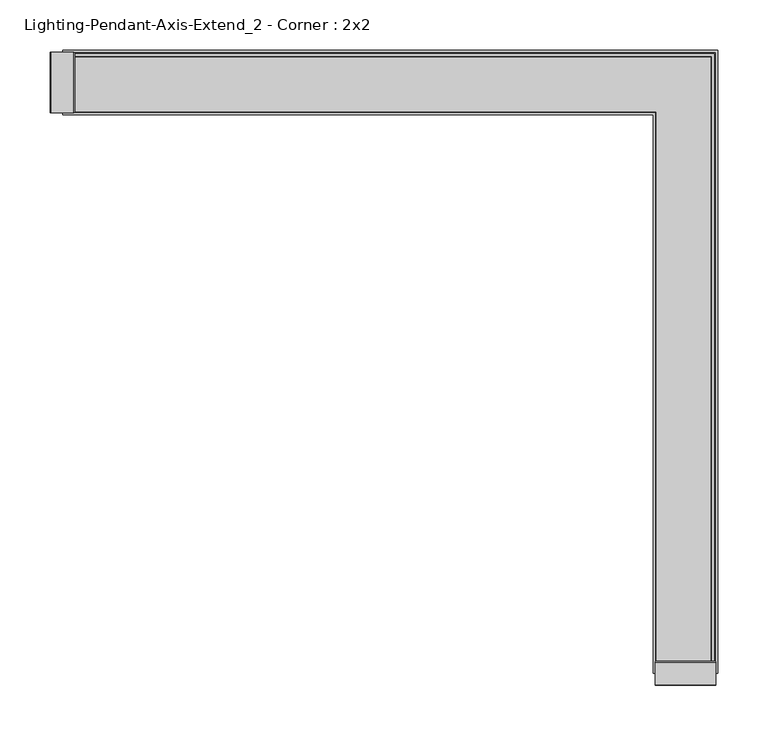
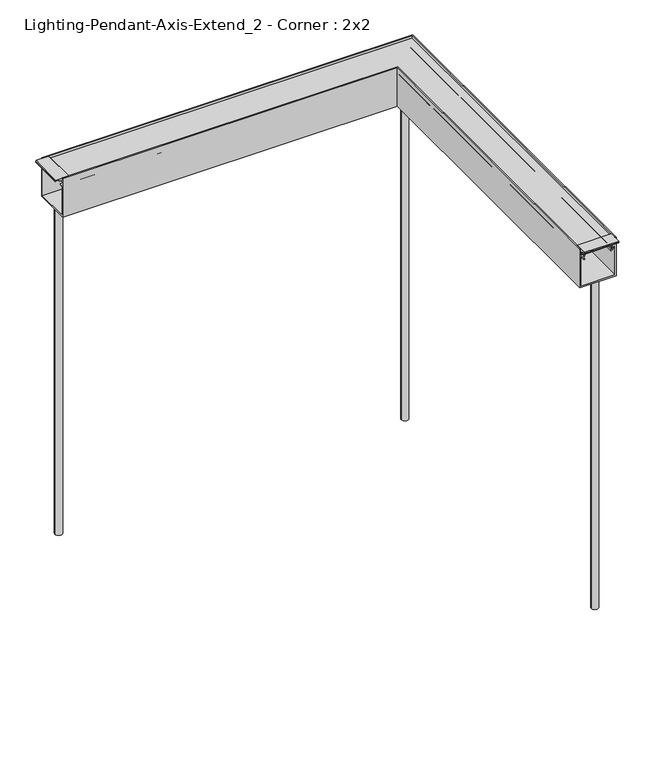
"""IFC4 building model written with IfcOpenShell, lengths in millimetres: light fixture geometry, Lighting-Pendant-Axis-Extend_2 - Corner : 2x2."""

from ifc_helpers import new_model, si_unit, frame, origin, place, context, project, spatial, polyline, circle_curve, ellipse_curve, outline, extrude, source, transform, mapped, element, save
from ifc_brep_helpers import plane_surface, cylinder_surface, revolved_surface, advanced_brep


def lighting_pendant_axis_extend_2_corner_2x2_7ed33a4c(model_context):
    return source(origin(), model_context, "Body", "SolidModel", [
        advanced_brep(
        [(311.15, -577.596, 609.6), (298.45, -577.596, 609.6), (304.8, -577.596, 609.6), (311.15, -577.596, 0.0), (298.45, -577.596, 0.0), (304.8, -577.596, 0.0)],
        [
            (0, 1, circle_curve(frame((304.8, -577.596, 609.6), z_axis=(0.0, 0.0, 1.0), x_axis=(-1.0, 0.0, 0.0)), 6.35)),
            (1, 2),
            (2, 0),
            (1, 0, circle_curve(frame((304.8, -577.596, 609.6), z_axis=(0.0, 0.0, 1.0), x_axis=(-1.0, 0.0, 0.0)), 6.35)),
            (3, 4, circle_curve(frame((304.8, -577.596, 0.0), z_axis=(0.0, 0.0, 1.0), x_axis=(-1.0, 0.0, 0.0)), 6.35)),
            (4, 1),
            (0, 3),
            (4, 3, circle_curve(frame((304.8, -577.596, 0.0), z_axis=(0.0, 0.0, 1.0), x_axis=(-1.0, 0.0, 0.0)), 6.35)),
            (5, 4),
            (3, 5),
        ],
        [
            plane_surface(frame((304.8, -577.596, 609.6), z_axis=(0.0, 0.0, 1.0), x_axis=(-1.0, 0.0, 0.0))),
            cylinder_surface(frame((304.8, -577.596, 2913.8581012), z_axis=(0.0, 0.0, -1.0), x_axis=(-1.0, 0.0, 0.0)), 6.35),
            plane_surface(frame((304.8, -577.596, 0.0), z_axis=(0.0, 0.0, -1.0), x_axis=(-1.0, 0.0, 0.0))),
        ],
        [
            (0, [[1, 2, 3]]),
            (0, [[4, -3, -2]]),
            (1, [[5, 6, -1, 7]]),
            (1, [[8, -7, -4, -6]]),
            (2, [[9, -5, 10]]),
            (2, [[-10, -8, -9]]),
        ],
    ),
        extrude(outline(polyline([(-574.6496, 679.9357861), (-574.6496, 678.46575), (-575.44335, 678.46575), (-575.44335, 679.2595), (-581.914, 679.2595), (-581.914, 676.4532981), (-591.5914, 676.4532981), (-591.5914, 679.2595), (-598.06205, 679.2595), (-598.06205, 678.46575), (-598.8558, 678.46575), (-598.8558, 679.9357861), (-597.9312563, 681.0375), (-575.5741437, 681.0375), (-574.6496, 679.9357861)])), frame((274.828, 0.0, 0.0), z_axis=(1.0, 0.0, 0.0), x_axis=(0.0, 1.0, 0.0)), (0.0, 0.0, 1.0), 59.944),
        extrude(outline(polyline([(679.9357861, -301.8536), (681.0375, -302.7781437), (681.0375, -325.1352563), (679.9357861, -326.0598), (678.46575, -326.0598), (678.46575, -325.26605), (679.2595, -325.26605), (679.2595, -318.7954), (676.4532981, -318.7954), (676.4532981, -309.118), (679.2595, -309.118), (679.2595, -302.64735), (678.46575, -302.64735), (678.46575, -301.8536), (679.9357861, -301.8536)])), frame((0.0, -29.972, 0.0), z_axis=(0.0, 1.0, 0.0), x_axis=(0.0, 0.0, 1.0)), (0.0, 0.0, 1.0), 59.944),
        advanced_brep(
        [(311.15, 0.0, 609.6), (298.45, 0.0, 609.6), (304.8, 0.0, 609.6), (311.15, 0.0, 0.0), (298.45, 0.0, 0.0), (304.8, 0.0, 0.0)],
        [
            (0, 1, circle_curve(frame((304.8, 0.0, 609.6), z_axis=(0.0, 0.0, 1.0), x_axis=(-1.0, 0.0, 0.0)), 6.35)),
            (1, 2),
            (2, 0),
            (1, 0, circle_curve(frame((304.8, 0.0, 609.6), z_axis=(0.0, 0.0, 1.0), x_axis=(-1.0, 0.0, 0.0)), 6.35)),
            (3, 4, circle_curve(frame((304.8, 0.0, 0.0), z_axis=(0.0, 0.0, 1.0), x_axis=(-1.0, 0.0, 0.0)), 6.35)),
            (4, 1),
            (0, 3),
            (4, 3, circle_curve(frame((304.8, 0.0, 0.0), z_axis=(0.0, 0.0, 1.0), x_axis=(-1.0, 0.0, 0.0)), 6.35)),
            (5, 4),
            (3, 5),
        ],
        [
            plane_surface(frame((304.8, 0.0, 609.6), z_axis=(0.0, 0.0, 1.0), x_axis=(-1.0, 0.0, 0.0))),
            cylinder_surface(frame((304.8, 0.0, 2913.8581012), z_axis=(0.0, 0.0, -1.0), x_axis=(-1.0, 0.0, 0.0)), 6.35),
            plane_surface(frame((304.8, 0.0, 0.0), z_axis=(0.0, 0.0, -1.0), x_axis=(-1.0, 0.0, 0.0))),
        ],
        [
            (0, [[1, 2, 3]]),
            (0, [[4, -3, -2]]),
            (1, [[5, 6, -1, 7]]),
            (1, [[8, -7, -4, -6]]),
            (2, [[9, -5, 10]]),
            (2, [[-10, -8, -9]]),
        ],
    ),
        advanced_brep(
        [(-296.672, 0.0, 609.6), (-309.372, 0.0, 609.6), (-303.022, 0.0, 609.6), (-296.672, 0.0, 0.0), (-309.372, 0.0, 0.0), (-303.022, 0.0, 0.0)],
        [
            (0, 1, circle_curve(frame((-303.022, 0.0, 609.6), z_axis=(0.0, 0.0, 1.0), x_axis=(-1.0, 0.0, 0.0)), 6.35)),
            (1, 2),
            (2, 0),
            (1, 0, circle_curve(frame((-303.022, 0.0, 609.6), z_axis=(0.0, 0.0, 1.0), x_axis=(-1.0, 0.0, 0.0)), 6.35)),
            (3, 4, circle_curve(frame((-303.022, 0.0, 0.0), z_axis=(0.0, 0.0, 1.0), x_axis=(-1.0, 0.0, 0.0)), 6.35)),
            (4, 1),
            (0, 3),
            (4, 3, circle_curve(frame((-303.022, 0.0, 0.0), z_axis=(0.0, 0.0, 1.0), x_axis=(-1.0, 0.0, 0.0)), 6.35)),
            (5, 4),
            (3, 5),
        ],
        [
            plane_surface(frame((-303.022, 0.0, 609.6), z_axis=(0.0, 0.0, 1.0), x_axis=(-1.0, 0.0, 0.0))),
            cylinder_surface(frame((-303.022, 0.0, 2913.8581012), z_axis=(0.0, 0.0, -1.0), x_axis=(-1.0, 0.0, 0.0)), 6.35),
            plane_surface(frame((-303.022, 0.0, 0.0), z_axis=(0.0, 0.0, -1.0), x_axis=(-1.0, 0.0, 0.0))),
        ],
        [
            (0, [[1, 2, 3]]),
            (0, [[4, -3, -2]]),
            (1, [[5, 6, -1, 7]]),
            (1, [[8, -7, -4, -6]]),
            (2, [[9, -5, 10]]),
            (2, [[-10, -8, -9]]),
        ],
    ),
        advanced_brep(
        [(-304.8, -24.1727262, 676.1479991), (-304.8, -24.5114181, 669.6853737), (-304.8, -25.3818814, 663.0794903), (-304.8, -24.5665956, 661.5817575), (-304.8, -23.2119066, 660.3823555), (-304.8, -24.192808, 659.0543369), (-304.8, -25.7659952, 660.4471908), (-304.8, -27.1108807, 664.27776), (-304.8, -25.4753941, 668.3169658), (-304.8, -26.1394859, 670.1661789), (-304.8, -25.825992, 676.1479991), (-304.8, -28.829, 676.1479991), (-304.8, -28.829, 678.053), (-304.8, 28.829, 678.053), (-304.8, 28.829, 676.1479991), (-304.8, 25.825992, 676.1479991), (-304.8, 26.1394859, 670.1661789), (-304.8, 25.4753941, 668.3169658), (-304.8, 27.1108807, 664.27776), (-304.8, 25.7659952, 660.4471908), (-304.8, 24.192808, 659.0543369), (-304.8, 23.2119066, 660.3823555), (-304.8, 24.5665956, 661.5817575), (-304.8, 25.3818814, 663.0794903), (-304.8, 24.5114181, 669.6853737), (-304.8, 24.1727262, 676.1479991), (280.6272738, -586.7527, 676.1479991), (328.9727262, -586.7527, 676.1479991), (329.3114181, -586.7527, 669.6853737), (330.1818814, -586.7527, 663.0794903), (329.3665956, -586.7527, 661.5817575), (328.0119066, -586.7527, 660.3823555), (328.992808, -586.7527, 659.0543369), (330.5659952, -586.7527, 660.4471908), (331.9108807, -586.7527, 664.27776), (330.2753941, -586.7527, 668.3169658), (330.9394859, -586.7527, 670.1661789), (330.625992, -586.7527, 676.1479991), (333.629, -586.7527, 676.1479991), (333.629, -586.7527, 678.053), (275.971, -586.7527, 678.053), (275.971, -586.7527, 676.1479991), (278.974008, -586.7527, 676.1479991), (278.6605141, -586.7527, 670.1661789), (279.3246059, -586.7527, 668.3169658), (277.6891193, -586.7527, 664.27776), (279.0340048, -586.7527, 660.4471908), (280.607192, -586.7527, 659.0543369), (281.5880934, -586.7527, 660.3823555), (280.2334044, -586.7527, 661.5817575), (279.4181186, -586.7527, 663.0794903), (280.2885819, -586.7527, 669.6853737), (280.6272738, -24.1727262, 676.1479991), (280.2885819, -24.5114181, 669.6853737), (279.4181186, -25.3818814, 663.0794903), (280.2334044, -24.5665956, 661.5817575), (281.5880934, -23.2119066, 660.3823555), (280.607192, -24.192808, 659.0543369), (279.0340048, -25.7659952, 660.4471908), (277.6891193, -27.1108807, 664.27776), (279.3246059, -25.4753941, 668.3169658), (278.6605141, -26.1394859, 670.1661789), (278.974008, -25.825992, 676.1479991), (275.971, -28.829, 676.1479991), (275.971, -28.829, 678.053), (333.629, 28.829, 678.053), (333.629, 28.829, 676.1479991), (330.625992, 25.825992, 676.1479991), (330.9394859, 26.1394859, 670.1661789), (330.2753941, 25.4753941, 668.3169658), (331.9108807, 27.1108807, 664.27776), (330.5659952, 25.7659952, 660.4471908), (328.992808, 24.192808, 659.0543369), (328.0119066, 23.2119066, 660.3823555), (329.3665956, 24.5665956, 661.5817575), (330.1818814, 25.3818814, 663.0794903), (329.3114181, 24.5114181, 669.6853737), (328.9727262, 24.1727262, 676.1479991)],
        [
            (0, 1),
            (1, 2, circle_curve(frame((-304.8, -27.2542, 666.6865), z_axis=(-1.0, 0.0, 0.0), x_axis=(0.0, 0.6748971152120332, 0.7379118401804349)), 4.064)),
            (2, 3, circle_curve(frame((-304.8, -22.149344, 663.8683457), z_axis=(1.0, 0.0, 0.0), x_axis=(0.0, -0.9714904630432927, -0.23707863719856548)), 3.3274001)),
            (3, 4, circle_curve(frame((-304.8, -17.1303177, 668.6160708), z_axis=(1.0, 0.0, 0.0), x_axis=(0.0, -0.7264901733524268, -0.68717685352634)), 10.2362001)),
            (4, 5, circle_curve(frame((-304.8, -23.7023573, 659.7183462), z_axis=(-1.0, 0.0, 0.0), x_axis=(0.0, 0.5941256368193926, 0.8043722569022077)), 0.8255)),
            (5, 6, circle_curve(frame((-304.8, -17.1303169, 668.6160717), z_axis=(-1.0, 0.0, 0.0), x_axis=(0.0, -0.594125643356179, -0.8043722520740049)), 11.8872013)),
            (6, 7, circle_curve(frame((-304.8, -22.149344, 663.8683457), z_axis=(-1.0, 0.0, 0.0), x_axis=(0.0, -0.7264685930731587, -0.6871996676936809)), 4.9784001)),
            (7, 8, circle_curve(frame((-304.8, -27.2542, 666.6865), z_axis=(1.0, 0.0, 0.0), x_axis=(0.0, 0.05939464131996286, -0.9982345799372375)), 2.413)),
            (8, 9, circle_curve(frame((-304.8, -23.6029669, 670.0332456), z_axis=(-1.0, 0.0, 0.0), x_axis=(0.0, -0.7371760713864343, -0.675700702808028)), 2.54)),
            (9, 10),
            (10, 11),
            (11, 12),
            (12, 13),
            (13, 14),
            (14, 15),
            (15, 16),
            (16, 17, circle_curve(frame((-304.8, 23.6029669, 670.0332456), z_axis=(-1.0, 0.0, 0.0), x_axis=(0.0, 0.9986295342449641, 0.05233596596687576)), 2.54)),
            (17, 18, circle_curve(frame((-304.8, 27.2542, 666.6865), z_axis=(1.0, 0.0, 0.0), x_axis=(0.0, -0.7371760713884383, 0.6757007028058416)), 2.413)),
            (18, 19, circle_curve(frame((-304.8, 22.149344, 663.8683457), z_axis=(-1.0, 0.0, 0.0), x_axis=(0.0, 0.9966127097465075, 0.0822381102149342)), 4.9784001)),
            (19, 20, circle_curve(frame((-304.8, 17.1303169, 668.6160717), z_axis=(-1.0, 0.0, 0.0), x_axis=(0.0, 0.7264685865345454, -0.6871996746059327)), 11.8872013)),
            (20, 21, circle_curve(frame((-304.8, 23.7023573, 659.7183462), z_axis=(-1.0, 0.0, 0.0), x_axis=(0.0, 0.5941256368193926, -0.8043722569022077)), 0.8255)),
            (21, 22, circle_curve(frame((-304.8, 17.1303177, 668.6160708), z_axis=(1.0, 0.0, 0.0), x_axis=(0.0, 0.5941256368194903, -0.8043722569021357)), 10.2362001)),
            (22, 23, circle_curve(frame((-304.8, 22.149344, 663.8683457), z_axis=(1.0, 0.0, 0.0), x_axis=(0.0, 0.7265349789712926, -0.6871294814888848)), 3.3274001)),
            (23, 24, circle_curve(frame((-304.8, 27.2542, 666.6865), z_axis=(-1.0, 0.0, 0.0), x_axis=(0.0, -0.46070831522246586, -0.8875516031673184)), 4.064)),
            (24, 25),
            (25, 0),
            (26, 27),
            (27, 28),
            (28, 29, circle_curve(frame((332.0542, -586.7527, 666.6865), z_axis=(0.0, -1.0, 0.0), x_axis=(-0.46070831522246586, 0.0, -0.8875516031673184)), 4.064)),
            (29, 30, circle_curve(frame((326.949344, -586.7527, 663.8683457), z_axis=(0.0, 1.0, 0.0), x_axis=(0.7265349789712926, 0.0, -0.6871294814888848)), 3.3274001)),
            (30, 31, circle_curve(frame((321.9303177, -586.7527, 668.6160708), z_axis=(0.0, 1.0, 0.0), x_axis=(0.5941256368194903, 0.0, -0.8043722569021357)), 10.2362001)),
            (31, 32, circle_curve(frame((328.5023573, -586.7527, 659.7183462), z_axis=(0.0, -1.0, 0.0), x_axis=(0.5941256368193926, 0.0, -0.8043722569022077)), 0.8255)),
            (32, 33, circle_curve(frame((321.9303169, -586.7527, 668.6160717), z_axis=(0.0, -1.0, 0.0), x_axis=(0.7264685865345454, 0.0, -0.6871996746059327)), 11.8872013)),
            (33, 34, circle_curve(frame((326.949344, -586.7527, 663.8683457), z_axis=(0.0, -1.0, 0.0), x_axis=(0.9966127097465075, 0.0, 0.0822381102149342)), 4.9784001)),
            (34, 35, circle_curve(frame((332.0542, -586.7527, 666.6865), z_axis=(0.0, 1.0, 0.0), x_axis=(-0.7371760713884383, 0.0, 0.6757007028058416)), 2.413)),
            (35, 36, circle_curve(frame((328.4029669, -586.7527, 670.0332456), z_axis=(0.0, -1.0, 0.0), x_axis=(0.9986295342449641, 0.0, 0.05233596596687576)), 2.54)),
            (36, 37),
            (37, 38),
            (38, 39),
            (39, 40),
            (40, 41),
            (41, 42),
            (42, 43),
            (43, 44, circle_curve(frame((281.1970331, -586.7527, 670.0332456), z_axis=(0.0, -1.0, 0.0), x_axis=(-0.7371760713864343, 0.0, -0.675700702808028)), 2.54)),
            (44, 45, circle_curve(frame((277.5458, -586.7527, 666.6865), z_axis=(0.0, 1.0, 0.0), x_axis=(0.05939464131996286, 0.0, -0.9982345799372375)), 2.413)),
            (45, 46, circle_curve(frame((282.650656, -586.7527, 663.8683457), z_axis=(0.0, -1.0, 0.0), x_axis=(-0.7264685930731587, 0.0, -0.6871996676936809)), 4.9784001)),
            (46, 47, circle_curve(frame((287.6696831, -586.7527, 668.6160717), z_axis=(0.0, -1.0, 0.0), x_axis=(-0.594125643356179, 0.0, -0.8043722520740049)), 11.8872013)),
            (47, 48, circle_curve(frame((281.0976427, -586.7527, 659.7183462), z_axis=(0.0, -1.0, 0.0), x_axis=(0.5941256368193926, 0.0, 0.8043722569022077)), 0.8255)),
            (48, 49, circle_curve(frame((287.6696823, -586.7527, 668.6160708), z_axis=(0.0, 1.0, 0.0), x_axis=(-0.7264901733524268, 0.0, -0.68717685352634)), 10.2362001)),
            (49, 50, circle_curve(frame((282.650656, -586.7527, 663.8683457), z_axis=(0.0, 1.0, 0.0), x_axis=(-0.9714904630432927, 0.0, -0.23707863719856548)), 3.3274001)),
            (50, 51, circle_curve(frame((277.5458, -586.7527, 666.6865), z_axis=(0.0, -1.0, 0.0), x_axis=(0.6748971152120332, 0.0, 0.7379118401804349)), 4.064)),
            (51, 26),
            (0, 52),
            (52, 53),
            (53, 1),
            (53, 54, ellipse_curve(frame((277.5458, -27.2542, 666.6865), z_axis=(-0.7071067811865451, 0.7071067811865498, 0.0), x_axis=(-0.70710678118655, -0.7071067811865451, 0.0)), 5.7473639, 4.064)),
            (54, 2),
            (54, 55, ellipse_curve(frame((282.650656, -22.149344, 663.8683457), z_axis=(0.7071067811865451, -0.7071067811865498, 0.0), x_axis=(0.70710678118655, 0.7071067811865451, 0.0)), 4.7056543, 3.3274001)),
            (55, 3),
            (55, 56, ellipse_curve(frame((287.6696823, -17.1303177, 668.6160708), z_axis=(0.7071067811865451, -0.7071067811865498, 0.0), x_axis=(0.70710678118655, 0.7071067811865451, 0.0)), 14.476173, 10.2362001)),
            (56, 4),
            (56, 57, ellipse_curve(frame((281.0976427, -23.7023573, 659.7183462), z_axis=(-0.7071067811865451, 0.7071067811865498, 0.0), x_axis=(-0.70710678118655, -0.7071067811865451, 0.0)), 1.1674333, 0.8255)),
            (57, 5),
            (57, 58, ellipse_curve(frame((287.6696831, -17.1303169, 668.6160717), z_axis=(-0.7071067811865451, 0.7071067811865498, 0.0), x_axis=(-0.70710678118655, -0.7071067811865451, 0.0)), 16.8110412, 11.8872013)),
            (58, 6),
            (58, 59, ellipse_curve(frame((282.650656, -22.149344, 663.8683457), z_axis=(-0.7071067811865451, 0.7071067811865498, 0.0), x_axis=(-0.70710678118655, -0.7071067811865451, 0.0)), 7.0405209, 4.9784001)),
            (59, 7),
            (59, 60, ellipse_curve(frame((277.5458, -27.2542, 666.6865), z_axis=(0.7071067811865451, -0.7071067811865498, 0.0), x_axis=(0.70710678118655, 0.7071067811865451, 0.0)), 3.4124973, 2.413)),
            (60, 8),
            (60, 61, ellipse_curve(frame((281.1970331, -23.6029669, 670.0332456), z_axis=(-0.7071067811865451, 0.7071067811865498, 0.0), x_axis=(-0.70710678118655, -0.7071067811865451, 0.0)), 3.5921024, 2.54)),
            (61, 9),
            (61, 62),
            (62, 10),
            (62, 42),
            (41, 63),
            (63, 11),
            (63, 64),
            (64, 12),
            (64, 40),
            (39, 65),
            (65, 13),
            (65, 66),
            (66, 14),
            (66, 38),
            (37, 67),
            (67, 15),
            (67, 68),
            (68, 16),
            (68, 69, ellipse_curve(frame((328.4029669, 23.6029669, 670.0332456), z_axis=(-0.7071067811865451, 0.7071067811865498, 0.0), x_axis=(-0.70710678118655, -0.7071067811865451, 0.0)), 3.5921024, 2.54)),
            (69, 17),
            (69, 70, ellipse_curve(frame((332.0542, 27.2542, 666.6865), z_axis=(0.7071067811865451, -0.7071067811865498, 0.0), x_axis=(0.70710678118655, 0.7071067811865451, 0.0)), 3.4124973, 2.413)),
            (70, 18),
            (70, 71, ellipse_curve(frame((326.949344, 22.149344, 663.8683457), z_axis=(-0.7071067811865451, 0.7071067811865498, 0.0), x_axis=(-0.70710678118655, -0.7071067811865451, 0.0)), 7.0405209, 4.9784001)),
            (71, 19),
            (71, 72, ellipse_curve(frame((321.9303169, 17.1303169, 668.6160717), z_axis=(-0.7071067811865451, 0.7071067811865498, 0.0), x_axis=(-0.70710678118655, -0.7071067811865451, 0.0)), 16.8110412, 11.8872013)),
            (72, 20),
            (72, 73, ellipse_curve(frame((328.5023573, 23.7023573, 659.7183462), z_axis=(-0.7071067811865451, 0.7071067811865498, 0.0), x_axis=(-0.70710678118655, -0.7071067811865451, 0.0)), 1.1674333, 0.8255)),
            (73, 21),
            (73, 74, ellipse_curve(frame((321.9303177, 17.1303177, 668.6160708), z_axis=(0.7071067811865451, -0.7071067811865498, 0.0), x_axis=(0.70710678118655, 0.7071067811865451, 0.0)), 14.476173, 10.2362001)),
            (74, 22),
            (74, 75, ellipse_curve(frame((326.949344, 22.149344, 663.8683457), z_axis=(0.7071067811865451, -0.7071067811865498, 0.0), x_axis=(0.70710678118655, 0.7071067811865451, 0.0)), 4.7056543, 3.3274001)),
            (75, 23),
            (75, 76, ellipse_curve(frame((332.0542, 27.2542, 666.6865), z_axis=(-0.7071067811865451, 0.7071067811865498, 0.0), x_axis=(-0.70710678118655, -0.7071067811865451, 0.0)), 5.7473639, 4.064)),
            (76, 24),
            (76, 77),
            (77, 25),
            (77, 27),
            (26, 52),
            (51, 53),
            (50, 54),
            (49, 55),
            (48, 56),
            (47, 57),
            (46, 58),
            (45, 59),
            (44, 60),
            (43, 61),
            (36, 68),
            (35, 69),
            (34, 70),
            (33, 71),
            (32, 72),
            (31, 73),
            (30, 74),
            (29, 75),
            (28, 76),
        ],
        [
            plane_surface(frame((-304.8, 0.0, 0.0), z_axis=(-1.0, 0.0, 0.0), x_axis=(0.0, 0.0, 1.0))),
            plane_surface(frame((304.8, -586.7527, 0.0), z_axis=(0.0, -1.0, 0.0), x_axis=(0.0, 0.0, 1.0))),
            plane_surface(frame((-304.8, -24.1727262, 676.1479991), z_axis=(0.0, 0.9986295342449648, -0.05233596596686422), x_axis=(1.0, 0.0, 0.0))),
            cylinder_surface(frame((-304.8, -27.2542, 666.6865), z_axis=(-1.0, 0.0, 0.0), x_axis=(0.0, 0.6748971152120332, 0.7379118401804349)), 4.064),
            revolved_surface(polyline([(285.97805606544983, -25.3818814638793, 663.0794902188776), (-304.8, -25.3818814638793, 663.0794902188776)]), (-304.8, -22.149344, 663.8683457), (1.0000000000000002, 0.0, 0.0)),
            revolved_surface(polyline([(297.9058823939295, -24.566816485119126, 661.581991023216), (-304.8, -24.566816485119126, 661.581991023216)]), (-304.8, -17.1303177, 668.6160708), (1.0, 0.0, 0.0)),
            cylinder_surface(frame((-304.8, -23.7023573, 659.7183462), z_axis=(-1.0, 0.0, 0.0), x_axis=(0.0, 0.5941256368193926, 0.8043722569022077)), 0.8255),
            cylinder_surface(frame((-304.8, -17.1303169, 668.6160717), z_axis=(-1.0, 0.0, 0.0), x_axis=(0.0, -0.594125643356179, -0.8043722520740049)), 11.8872013),
            cylinder_surface(frame((-304.8, -22.149344, 663.8683457), z_axis=(-1.0, 0.0, 0.0), x_axis=(0.0, -0.7264685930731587, -0.6871996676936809)), 4.9784001),
            revolved_surface(polyline([(279.95879998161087, -27.11088073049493, 664.2777599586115), (-304.8, -27.11088073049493, 664.2777599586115)]), (-304.8, -27.2542, 666.6865), (1.0, 0.0, 0.0)),
            cylinder_surface(frame((-304.8, -23.6029669, 670.0332456), z_axis=(-1.0, 0.0, 0.0), x_axis=(0.0, -0.7371760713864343, -0.675700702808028)), 2.54),
            plane_surface(frame((-304.8, -26.1394859, 670.1661789), z_axis=(0.0, -0.9986295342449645, 0.05233596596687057), x_axis=(1.0, 0.0, 0.0))),
            plane_surface(frame((-304.8, -25.825992, 676.1479991), z_axis=(0.0, 0.0, -1.0), x_axis=(1.0, 0.0, 0.0))),
            plane_surface(frame((-304.8, -28.829, 676.1479991), z_axis=(0.0, -1.0, 0.0), x_axis=(1.0, 0.0, 0.0))),
            plane_surface(frame((-304.8, -28.829, 678.053), z_axis=(0.0, 0.0, 1.0), x_axis=(1.0, 0.0, 0.0))),
            plane_surface(frame((-304.8, 28.829, 678.053), z_axis=(0.0, 1.0, 0.0), x_axis=(1.0, 0.0, 0.0))),
            plane_surface(frame((-304.8, 28.829, 676.1479991), z_axis=(0.0, 0.0, -1.0), x_axis=(1.0, 0.0, 0.0))),
            plane_surface(frame((-304.8, 25.825992, 676.1479991), z_axis=(0.0, 0.9986295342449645, 0.05233596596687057), x_axis=(1.0, 0.0, 0.0))),
            cylinder_surface(frame((-304.8, 23.6029669, 670.0332456), z_axis=(-1.0, 0.0, 0.0), x_axis=(0.0, 0.9986295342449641, 0.05233596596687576)), 2.54),
            revolved_surface(polyline([(334.46719998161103, 25.4753941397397, 668.3169657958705), (-304.8, 25.4753941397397, 668.3169657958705)]), (-304.8, 27.2542, 666.6865), (1.0000000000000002, 0.0, 0.0)),
            cylinder_surface(frame((-304.8, 22.149344, 663.8683457), z_axis=(-1.0000000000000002, 0.0, 0.0), x_axis=(0.0, 0.9966127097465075, 0.0822381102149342)), 4.9784001),
            cylinder_surface(frame((-304.8, 17.1303169, 668.6160717), z_axis=(-1.0, 0.0, 0.0), x_axis=(0.0, 0.7264685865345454, -0.6871996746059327)), 11.8872013),
            cylinder_surface(frame((-304.8, 23.7023573, 659.7183462), z_axis=(-1.0, 0.0, 0.0), x_axis=(0.0, 0.5941256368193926, -0.8043722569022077)), 0.8255),
            revolved_surface(polyline([(332.1665177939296, 23.21190660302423, 660.3823554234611), (-304.8, 23.21190660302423, 660.3823554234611)]), (-304.8, 17.1303177, 668.6160708), (1.0, 0.0, 0.0)),
            revolved_surface(polyline([(330.2767440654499, 24.566816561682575, 661.5819909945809), (-304.8, 24.566816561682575, 661.5819909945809)]), (-304.8, 22.149344, 663.8683457), (1.0000000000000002, 0.0, 0.0)),
            cylinder_surface(frame((-304.8, 27.2542, 666.6865), z_axis=(-1.0, 0.0, 0.0), x_axis=(0.0, -0.46070831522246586, -0.8875516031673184)), 4.064),
            plane_surface(frame((-304.8, 24.5114181, 669.6853737), z_axis=(0.0, -0.9986295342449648, -0.05233596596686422), x_axis=(1.0, 0.0, 0.0))),
            plane_surface(frame((-304.8, 24.1727262, 676.1479991), z_axis=(0.0, 0.0, -1.0), x_axis=(1.0, 0.0, 0.0))),
            plane_surface(frame((280.6272738, -24.1727262, 676.1479991), z_axis=(0.9986295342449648, 0.0, -0.05233596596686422), x_axis=(0.0, -1.0, 0.0))),
            cylinder_surface(frame((277.5458, 0.0, 666.6865), z_axis=(0.0, 1.0, 0.0), x_axis=(0.6748971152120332, 0.0, 0.7379118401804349)), 4.064),
            revolved_surface(polyline([(279.41811853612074, -586.7527000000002, 663.0794902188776), (279.41811853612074, -18.82194393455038, 663.0794902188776)]), (282.650656, 0.0, 663.8683457), (0.0, -1.0000000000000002, 0.0)),
            revolved_surface(polyline([(280.23318351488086, -586.7527, 661.581991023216), (280.23318351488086, -6.894117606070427, 661.581991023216)]), (287.6696823, 0.0, 668.6160708), (0.0, -1.0, 0.0)),
            cylinder_surface(frame((281.0976427, 0.0, 659.7183462), z_axis=(0.0, 1.0, 0.0), x_axis=(0.5941256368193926, 0.0, 0.8043722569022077)), 0.8255),
            cylinder_surface(frame((287.6696831, 0.0, 668.6160717), z_axis=(0.0, 1.0, 0.0), x_axis=(-0.594125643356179, 0.0, -0.8043722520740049)), 11.8872013),
            cylinder_surface(frame((282.650656, 0.0, 663.8683457), z_axis=(0.0, 1.0, 0.0), x_axis=(-0.7264685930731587, 0.0, -0.6871996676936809)), 4.9784001),
            revolved_surface(polyline([(277.68911926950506, -586.7527, 664.2777599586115), (277.68911926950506, -24.841200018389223, 664.2777599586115)]), (277.5458, 0.0, 666.6865), (0.0, -1.0, 0.0)),
            cylinder_surface(frame((281.1970331, 0.0, 670.0332456), z_axis=(0.0, 1.0, 0.0), x_axis=(-0.7371760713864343, 0.0, -0.675700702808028)), 2.54),
            plane_surface(frame((278.6605141, -26.1394859, 670.1661789), z_axis=(-0.9986295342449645, 0.0, 0.05233596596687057), x_axis=(0.0, -1.0, 0.0))),
            plane_surface(frame((275.971, -28.829, 676.1479991), z_axis=(-1.0, 0.0, 0.0), x_axis=(0.0, -1.0, 0.0))),
            plane_surface(frame((333.629, 28.829, 678.053), z_axis=(1.0, 0.0, 0.0), x_axis=(0.0, -1.0, 0.0))),
            plane_surface(frame((330.625992, 25.825992, 676.1479991), z_axis=(0.9986295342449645, 0.0, 0.05233596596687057), x_axis=(0.0, -1.0, 0.0))),
            cylinder_surface(frame((328.4029669, 0.0, 670.0332456), z_axis=(0.0, 1.0, 0.0), x_axis=(0.9986295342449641, 0.0, 0.05233596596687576)), 2.54),
            revolved_surface(polyline([(330.27539413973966, -586.7527000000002, 668.3169657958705), (330.27539413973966, 29.667199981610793, 668.3169657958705)]), (332.0542, 0.0, 666.6865), (0.0, -1.0000000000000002, 0.0)),
            cylinder_surface(frame((326.949344, 0.0, 663.8683457), z_axis=(0.0, 1.0000000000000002, 0.0), x_axis=(0.9966127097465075, 0.0, 0.0822381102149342)), 4.9784001),
            cylinder_surface(frame((321.9303169, 0.0, 668.6160717), z_axis=(0.0, 1.0, 0.0), x_axis=(0.7264685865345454, 0.0, -0.6871996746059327)), 11.8872013),
            cylinder_surface(frame((328.5023573, 0.0, 659.7183462), z_axis=(0.0, 1.0, 0.0), x_axis=(0.5941256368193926, 0.0, -0.8043722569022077)), 0.8255),
            revolved_surface(polyline([(328.0119066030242, -586.7527, 660.3823554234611), (328.0119066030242, 27.36651779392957, 660.3823554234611)]), (321.9303177, 0.0, 668.6160708), (0.0, -1.0, 0.0)),
            revolved_surface(polyline([(329.3668165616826, -586.7527000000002, 661.5819909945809), (329.3668165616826, 25.476744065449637, 661.5819909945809)]), (326.949344, 0.0, 663.8683457), (0.0, -1.0000000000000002, 0.0)),
            cylinder_surface(frame((332.0542, 0.0, 666.6865), z_axis=(0.0, 1.0, 0.0), x_axis=(-0.46070831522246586, 0.0, -0.8875516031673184)), 4.064),
            plane_surface(frame((329.3114181, 24.5114181, 669.6853737), z_axis=(-0.9986295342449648, 0.0, -0.05233596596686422), x_axis=(0.0, -1.0, 0.0))),
        ],
        [
            (0, [[1, 2, 3, 4, 5, 6, 7, 8, 9, 10, 11, 12, 13, 14, 15, 16, 17, 18, 19, 20, 21, 22, 23, 24, 25, 26]]),
            (1, [[27, 28, 29, 30, 31, 32, 33, 34, 35, 36, 37, 38, 39, 40, 41, 42, 43, 44, 45, 46, 47, 48, 49, 50, 51, 52]]),
            (2, [[-1, 53, 54, 55]]),
            (3, [[-2, -55, 56, 57]]),
            (4, [[-3, -57, 58, 59]]),
            (5, [[-4, -59, 60, 61]]),
            (6, [[-5, -61, 62, 63]]),
            (7, [[-6, -63, 64, 65]]),
            (8, [[-7, -65, 66, 67]]),
            (9, [[-8, -67, 68, 69]]),
            (10, [[-9, -69, 70, 71]]),
            (11, [[-10, -71, 72, 73]]),
            (12, [[-11, -73, 74, -42, 75, 76]]),
            (13, [[-12, -76, 77, 78]]),
            (14, [[-13, -78, 79, -40, 80, 81]]),
            (15, [[-14, -81, 82, 83]]),
            (16, [[-15, -83, 84, -38, 85, 86]]),
            (17, [[-16, -86, 87, 88]]),
            (18, [[-17, -88, 89, 90]]),
            (19, [[-18, -90, 91, 92]]),
            (20, [[-19, -92, 93, 94]]),
            (21, [[-20, -94, 95, 96]]),
            (22, [[-21, -96, 97, 98]]),
            (23, [[-22, -98, 99, 100]]),
            (24, [[-23, -100, 101, 102]]),
            (25, [[-24, -102, 103, 104]]),
            (26, [[-25, -104, 105, 106]]),
            (27, [[-26, -106, 107, -27, 108, -53]]),
            (28, [[-54, -108, -52, 109]]),
            (29, [[-56, -109, -51, 110]]),
            (30, [[-58, -110, -50, 111]]),
            (31, [[-60, -111, -49, 112]]),
            (32, [[-62, -112, -48, 113]]),
            (33, [[-64, -113, -47, 114]]),
            (34, [[-66, -114, -46, 115]]),
            (35, [[-68, -115, -45, 116]]),
            (36, [[-70, -116, -44, 117]]),
            (37, [[-72, -117, -43, -74]]),
            (38, [[-77, -75, -41, -79]]),
            (39, [[-82, -80, -39, -84]]),
            (40, [[-87, -85, -37, 118]]),
            (41, [[-89, -118, -36, 119]]),
            (42, [[-91, -119, -35, 120]]),
            (43, [[-93, -120, -34, 121]]),
            (44, [[-95, -121, -33, 122]]),
            (45, [[-97, -122, -32, 123]]),
            (46, [[-99, -123, -31, 124]]),
            (47, [[-101, -124, -30, 125]]),
            (48, [[-103, -125, -29, 126]]),
            (49, [[-105, -126, -28, -107]]),
        ],
    ),
        advanced_brep(
        [(-313.9567, -29.972, 666.1277), (-313.9567, -29.972, 611.632), (-313.9567, 29.972, 611.632), (-313.9567, 29.972, 666.1277), (-313.9567, 28.1325797, 666.1277), (-313.9567, 25.8730546, 664.8231626), (-313.9567, 24.6896516, 667.0783682), (-313.9567, 28.067, 669.9123), (-313.9567, 28.067, 668.1597), (-313.9567, 29.972, 668.1597), (-313.9567, 29.972, 674.6875), (-313.9567, 28.067, 674.6875), (-313.9567, 28.067, 673.1635), (-313.9567, 26.416, 673.2500252), (-313.9567, 26.416, 675.9575), (-313.9567, 29.972, 675.9575), (-313.9567, 29.972, 681.0375), (-313.9567, 32.004, 681.0375), (-313.9567, 32.004, 609.6), (-313.9567, -32.004, 609.6), (-313.9567, -32.004, 681.0375), (-313.9567, -29.972, 681.0375), (-313.9567, -29.972, 675.9575), (-313.9567, -26.416, 675.9575), (-313.9567, -26.416, 673.2500252), (-313.9567, -28.067, 673.1635), (-313.9567, -28.067, 674.6875), (-313.9567, -29.972, 674.6875), (-313.9567, -29.972, 668.1597), (-313.9567, -28.067, 668.1597), (-313.9567, -28.067, 669.9123), (-313.9567, -24.6896516, 667.0783682), (-313.9567, -25.8730546, 664.8231626), (-313.9567, -28.1325797, 666.1277), (274.828, -586.7527, 666.1277), (276.6674203, -586.7527, 666.1277), (278.9269454, -586.7527, 664.8231626), (280.1103484, -586.7527, 667.0783682), (276.733, -586.7527, 669.9123), (276.733, -586.7527, 668.1597), (274.828, -586.7527, 668.1597), (274.828, -586.7527, 674.6875), (276.733, -586.7527, 674.6875), (276.733, -586.7527, 673.1635), (278.384, -586.7527, 673.2500252), (278.384, -586.7527, 675.9575), (274.828, -586.7527, 675.9575), (274.828, -586.7527, 681.0375), (272.796, -586.7527, 681.0375), (272.796, -586.7527, 609.6), (336.804, -586.7527, 609.6), (336.804, -586.7527, 681.0375), (334.772, -586.7527, 681.0375), (334.772, -586.7527, 675.9575), (331.216, -586.7527, 675.9575), (331.216, -586.7527, 673.2500252), (332.867, -586.7527, 673.1635), (332.867, -586.7527, 674.6875), (334.772, -586.7527, 674.6875), (334.772, -586.7527, 668.1597), (332.867, -586.7527, 668.1597), (332.867, -586.7527, 669.9123), (329.4896516, -586.7527, 667.0783682), (330.6730546, -586.7527, 664.8231626), (332.9325797, -586.7527, 666.1277), (334.772, -586.7527, 666.1277), (334.772, -586.7527, 611.632), (274.828, -586.7527, 611.632), (274.828, -29.972, 666.1277), (274.828, -29.972, 611.632), (334.772, 29.972, 611.632), (334.772, 29.972, 666.1277), (332.9325797, 28.1325797, 666.1277), (330.6730546, 25.8730546, 664.8231626), (329.4896516, 24.6896516, 667.0783682), (332.867, 28.067, 669.9123), (332.867, 28.067, 668.1597), (334.772, 29.972, 668.1597), (334.772, 29.972, 674.6875), (332.867, 28.067, 674.6875), (332.867, 28.067, 673.1635), (331.216, 26.416, 673.2500252), (331.216, 26.416, 675.9575), (334.772, 29.972, 675.9575), (334.772, 29.972, 681.0375), (336.804, 32.004, 681.0375), (336.804, 32.004, 609.6), (272.796, -32.004, 609.6), (272.796, -32.004, 681.0375), (274.828, -29.972, 681.0375), (274.828, -29.972, 675.9575), (278.384, -26.416, 675.9575), (278.384, -26.416, 673.2500252), (276.733, -28.067, 673.1635), (276.733, -28.067, 674.6875), (274.828, -29.972, 674.6875), (274.828, -29.972, 668.1597), (276.733, -28.067, 668.1597), (276.733, -28.067, 669.9123), (280.1103484, -24.6896516, 667.0783682), (278.9269454, -25.8730546, 664.8231626), (276.6674203, -28.1325797, 666.1277)],
        [
            (0, 1),
            (1, 2),
            (2, 3),
            (3, 4),
            (4, 5, circle_curve(frame((-313.9567, 26.6262297, 666.1277), z_axis=(-1.0, 0.0, 0.0), x_axis=(0.0, -0.5000000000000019, -0.8660254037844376)), 1.5063501)),
            (5, 6, circle_curve(frame((-313.9567, 27.0642121, 666.8863079), z_axis=(-1.0, 0.0, 0.0), x_axis=(0.0, -0.9967449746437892, 0.08061920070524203)), 2.382315)),
            (6, 7),
            (7, 8),
            (8, 9),
            (9, 10),
            (10, 11),
            (11, 12),
            (12, 13),
            (13, 14),
            (14, 15),
            (15, 16),
            (16, 17),
            (17, 18),
            (18, 19),
            (19, 20),
            (20, 21),
            (21, 22),
            (22, 23),
            (23, 24),
            (24, 25),
            (25, 26),
            (26, 27),
            (27, 28),
            (28, 29),
            (29, 30),
            (30, 31),
            (31, 32, circle_curve(frame((-313.9567, -27.0642121, 666.8863079), z_axis=(-1.0, 0.0, 0.0), x_axis=(0.0, 0.5000000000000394, -0.866025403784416)), 2.382315)),
            (32, 33, circle_curve(frame((-313.9567, -26.6262297, 666.1277), z_axis=(-1.0, 0.0, 0.0), x_axis=(0.0, -1.0, 0.0)), 1.5063501)),
            (33, 0),
            (34, 35),
            (35, 36, circle_curve(frame((278.1737703, -586.7527, 666.1277), z_axis=(0.0, -1.0, 0.0), x_axis=(-1.0, 0.0, 0.0)), 1.5063501)),
            (36, 37, circle_curve(frame((277.7357879, -586.7527, 666.8863079), z_axis=(0.0, -1.0, 0.0), x_axis=(0.5000000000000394, 0.0, -0.866025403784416)), 2.382315)),
            (37, 38),
            (38, 39),
            (39, 40),
            (40, 41),
            (41, 42),
            (42, 43),
            (43, 44),
            (44, 45),
            (45, 46),
            (46, 47),
            (47, 48),
            (48, 49),
            (49, 50),
            (50, 51),
            (51, 52),
            (52, 53),
            (53, 54),
            (54, 55),
            (55, 56),
            (56, 57),
            (57, 58),
            (58, 59),
            (59, 60),
            (60, 61),
            (61, 62),
            (62, 63, circle_curve(frame((331.8642121, -586.7527, 666.8863079), z_axis=(0.0, -1.0, 0.0), x_axis=(-0.9967449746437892, 0.0, 0.08061920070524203)), 2.382315)),
            (63, 64, circle_curve(frame((331.4262297, -586.7527, 666.1277), z_axis=(0.0, -1.0, 0.0), x_axis=(-0.5000000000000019, 0.0, -0.8660254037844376)), 1.5063501)),
            (64, 65),
            (65, 66),
            (66, 67),
            (67, 34),
            (0, 68),
            (68, 69),
            (69, 1),
            (69, 67),
            (66, 70),
            (70, 2),
            (70, 71),
            (71, 3),
            (71, 65),
            (64, 72),
            (72, 4),
            (72, 73, ellipse_curve(frame((331.4262297, 26.6262297, 666.1277), z_axis=(-0.7071067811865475, 0.7071067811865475, 0.0), x_axis=(-0.7071067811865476, -0.7071067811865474, 0.0)), 2.1303007, 1.5063501)),
            (73, 5),
            (73, 74, ellipse_curve(frame((331.8642121, 27.0642121, 666.8863079), z_axis=(-0.7071067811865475, 0.7071067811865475, 0.0), x_axis=(-0.7071067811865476, -0.7071067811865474, 0.0)), 3.3691022, 2.382315)),
            (74, 6),
            (74, 75),
            (75, 7),
            (75, 76),
            (76, 8),
            (76, 60),
            (59, 77),
            (77, 9),
            (77, 78),
            (78, 10),
            (78, 58),
            (57, 79),
            (79, 11),
            (79, 80),
            (80, 12),
            (80, 81),
            (81, 13),
            (81, 82),
            (82, 14),
            (82, 54),
            (53, 83),
            (83, 15),
            (83, 84),
            (84, 16),
            (84, 52),
            (51, 85),
            (85, 17),
            (85, 86),
            (86, 18),
            (86, 50),
            (49, 87),
            (87, 19),
            (87, 88),
            (88, 20),
            (88, 48),
            (47, 89),
            (89, 21),
            (89, 90),
            (90, 22),
            (90, 46),
            (45, 91),
            (91, 23),
            (91, 92),
            (92, 24),
            (92, 93),
            (93, 25),
            (93, 94),
            (94, 26),
            (94, 42),
            (41, 95),
            (95, 27),
            (95, 96),
            (96, 28),
            (96, 40),
            (39, 97),
            (97, 29),
            (97, 98),
            (98, 30),
            (98, 99),
            (99, 31),
            (99, 100, ellipse_curve(frame((277.7357879, -27.0642121, 666.8863079), z_axis=(-0.7071067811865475, 0.7071067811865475, 0.0), x_axis=(-0.7071067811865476, -0.7071067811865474, 0.0)), 3.3691022, 2.382315)),
            (100, 32),
            (100, 101, ellipse_curve(frame((278.1737703, -26.6262297, 666.1277), z_axis=(-0.7071067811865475, 0.7071067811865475, 0.0), x_axis=(-0.7071067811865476, -0.7071067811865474, 0.0)), 2.1303007, 1.5063501)),
            (101, 33),
            (101, 35),
            (34, 68),
            (63, 73),
            (62, 74),
            (61, 75),
            (56, 80),
            (55, 81),
            (44, 92),
            (43, 93),
            (38, 98),
            (37, 99),
            (36, 100),
        ],
        [
            plane_surface(frame((-313.9567, 0.0, 0.0), z_axis=(-1.0, 0.0, 0.0), x_axis=(0.0, 0.0, 1.0))),
            plane_surface(frame((304.8, -586.7527, 0.0), z_axis=(0.0, -1.0, 0.0), x_axis=(0.0, 0.0, 1.0))),
            plane_surface(frame((-313.9567, -29.972, 666.1277), z_axis=(0.0, 1.0, 0.0), x_axis=(1.0, 0.0, 0.0))),
            plane_surface(frame((-313.9567, -29.972, 611.632), z_axis=(0.0, 0.0, 1.0), x_axis=(1.0, 0.0, 0.0))),
            plane_surface(frame((-313.9567, 29.972, 611.632), z_axis=(0.0, -1.0, 0.0), x_axis=(1.0, 0.0, 0.0))),
            plane_surface(frame((-313.9567, 29.972, 666.1277), z_axis=(0.0, 0.0, -1.0), x_axis=(1.0, 0.0, 0.0))),
            cylinder_surface(frame((-313.9567, 26.6262297, 666.1277), z_axis=(-1.0, 0.0, 0.0), x_axis=(0.0, -0.5000000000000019, -0.8660254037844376)), 1.5063501),
            cylinder_surface(frame((-313.9567, 27.0642121, 666.8863079), z_axis=(-1.0000000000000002, 0.0, 0.0), x_axis=(0.0, -0.9967449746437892, 0.08061920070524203)), 2.382315),
            plane_surface(frame((-313.9567, 24.6896516, 667.0783682), z_axis=(0.0, -0.6427876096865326, 0.7660444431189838), x_axis=(1.0, 0.0, 0.0))),
            plane_surface(frame((-313.9567, 28.067, 669.9123), z_axis=(0.0, 1.0, 0.0), x_axis=(1.0, 0.0, 0.0))),
            plane_surface(frame((-313.9567, 28.067, 668.1597), z_axis=(0.0, 0.0, 1.0), x_axis=(1.0, 0.0, 0.0))),
            plane_surface(frame((-313.9567, 29.972, 668.1597), z_axis=(0.0, -1.0, 0.0), x_axis=(1.0, 0.0, 0.0))),
            plane_surface(frame((-313.9567, 29.972, 674.6875), z_axis=(0.0, 0.0, -1.0), x_axis=(1.0, 0.0, 0.0))),
            plane_surface(frame((-313.9567, 28.067, 674.6875), z_axis=(0.0, 1.0, 0.0), x_axis=(1.0, 0.0, 0.0))),
            plane_surface(frame((-313.9567, 28.067, 673.1635), z_axis=(0.0, -0.052335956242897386, -0.9986295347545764), x_axis=(1.0, 0.0, 0.0))),
            plane_surface(frame((-313.9567, 26.416, 673.2500252), z_axis=(0.0, -1.0, 0.0), x_axis=(1.0, 0.0, 0.0))),
            plane_surface(frame((-313.9567, 26.416, 675.9575), z_axis=(0.0, 0.0, 1.0), x_axis=(1.0, 0.0, 0.0))),
            plane_surface(frame((-313.9567, 29.972, 675.9575), z_axis=(0.0, -1.0, 0.0), x_axis=(1.0, 0.0, 0.0))),
            plane_surface(frame((-313.9567, 29.972, 681.0375), z_axis=(0.0, 0.0, 1.0), x_axis=(1.0, 0.0, 0.0))),
            plane_surface(frame((-313.9567, 32.004, 681.0375), z_axis=(0.0, 1.0, 0.0), x_axis=(1.0, 0.0, 0.0))),
            plane_surface(frame((-313.9567, 32.004, 609.6), z_axis=(0.0, 0.0, -1.0), x_axis=(1.0, 0.0, 0.0))),
            plane_surface(frame((-313.9567, -32.004, 609.6), z_axis=(0.0, -1.0, 0.0), x_axis=(1.0, 0.0, 0.0))),
            plane_surface(frame((-313.9567, -32.004, 681.0375), z_axis=(0.0, 0.0, 1.0), x_axis=(1.0, 0.0, 0.0))),
            plane_surface(frame((-313.9567, -29.972, 681.0375), z_axis=(0.0, 1.0, 0.0), x_axis=(1.0, 0.0, 0.0))),
            plane_surface(frame((-313.9567, -29.972, 675.9575), z_axis=(0.0, 0.0, 1.0), x_axis=(1.0, 0.0, 0.0))),
            plane_surface(frame((-313.9567, -26.416, 675.9575), z_axis=(0.0, 1.0, 0.0), x_axis=(1.0, 0.0, 0.0))),
            plane_surface(frame((-313.9567, -26.416, 673.2500252), z_axis=(0.0, 0.052335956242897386, -0.9986295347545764), x_axis=(1.0, 0.0, 0.0))),
            plane_surface(frame((-313.9567, -28.067, 673.1635), z_axis=(0.0, -1.0, 0.0), x_axis=(1.0, 0.0, 0.0))),
            plane_surface(frame((-313.9567, -28.067, 674.6875), z_axis=(0.0, 0.0, -1.0), x_axis=(1.0, 0.0, 0.0))),
            plane_surface(frame((-313.9567, -29.972, 674.6875), z_axis=(0.0, 1.0, 0.0), x_axis=(1.0, 0.0, 0.0))),
            plane_surface(frame((-313.9567, -29.972, 668.1597), z_axis=(0.0, 0.0, 1.0), x_axis=(1.0, 0.0, 0.0))),
            plane_surface(frame((-313.9567, -28.067, 668.1597), z_axis=(0.0, -1.0, 0.0), x_axis=(1.0, 0.0, 0.0))),
            plane_surface(frame((-313.9567, -28.067, 669.9123), z_axis=(0.0, 0.6427876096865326, 0.7660444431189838), x_axis=(1.0, 0.0, 0.0))),
            cylinder_surface(frame((-313.9567, -27.0642121, 666.8863079), z_axis=(-1.0, 0.0, 0.0), x_axis=(0.0, 0.5000000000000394, -0.866025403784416)), 2.382315),
            cylinder_surface(frame((-313.9567, -26.6262297, 666.1277), z_axis=(-1.0, 0.0, 0.0), x_axis=(0.0, -1.0, 0.0)), 1.5063501),
            plane_surface(frame((-313.9567, -28.1325797, 666.1277), z_axis=(0.0, 0.0, -1.0), x_axis=(1.0, 0.0, 0.0))),
            plane_surface(frame((274.828, -29.972, 666.1277), z_axis=(1.0, 0.0, 0.0), x_axis=(0.0, -1.0, 0.0))),
            plane_surface(frame((334.772, 29.972, 611.632), z_axis=(-1.0, 0.0, 0.0), x_axis=(0.0, -1.0, 0.0))),
            cylinder_surface(frame((331.4262297, 0.0, 666.1277), z_axis=(0.0, 1.0, 0.0), x_axis=(-0.5000000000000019, 0.0, -0.8660254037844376)), 1.5063501),
            cylinder_surface(frame((331.8642121, 0.0, 666.8863079), z_axis=(0.0, 1.0000000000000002, 0.0), x_axis=(-0.9967449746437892, 0.0, 0.08061920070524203)), 2.382315),
            plane_surface(frame((329.4896516, 24.6896516, 667.0783682), z_axis=(-0.6427876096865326, 0.0, 0.7660444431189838), x_axis=(0.0, -1.0, 0.0))),
            plane_surface(frame((332.867, 28.067, 669.9123), z_axis=(1.0, 0.0, 0.0), x_axis=(0.0, -1.0, 0.0))),
            plane_surface(frame((334.772, 29.972, 668.1597), z_axis=(-1.0, 0.0, 0.0), x_axis=(0.0, -1.0, 0.0))),
            plane_surface(frame((332.867, 28.067, 674.6875), z_axis=(1.0, 0.0, 0.0), x_axis=(0.0, -1.0, 0.0))),
            plane_surface(frame((332.867, 28.067, 673.1635), z_axis=(-0.052335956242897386, 0.0, -0.9986295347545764), x_axis=(0.0, -1.0, 0.0))),
            plane_surface(frame((331.216, 26.416, 673.2500252), z_axis=(-1.0, 0.0, 0.0), x_axis=(0.0, -1.0, 0.0))),
            plane_surface(frame((334.772, 29.972, 675.9575), z_axis=(-1.0, 0.0, 0.0), x_axis=(0.0, -1.0, 0.0))),
            plane_surface(frame((336.804, 32.004, 681.0375), z_axis=(1.0, 0.0, 0.0), x_axis=(0.0, -1.0, 0.0))),
            plane_surface(frame((272.796, -32.004, 609.6), z_axis=(-1.0, 0.0, 0.0), x_axis=(0.0, -1.0, 0.0))),
            plane_surface(frame((274.828, -29.972, 681.0375), z_axis=(1.0, 0.0, 0.0), x_axis=(0.0, -1.0, 0.0))),
            plane_surface(frame((278.384, -26.416, 675.9575), z_axis=(1.0, 0.0, 0.0), x_axis=(0.0, -1.0, 0.0))),
            plane_surface(frame((278.384, -26.416, 673.2500252), z_axis=(0.052335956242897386, 0.0, -0.9986295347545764), x_axis=(0.0, -1.0, 0.0))),
            plane_surface(frame((276.733, -28.067, 673.1635), z_axis=(-1.0, 0.0, 0.0), x_axis=(0.0, -1.0, 0.0))),
            plane_surface(frame((274.828, -29.972, 674.6875), z_axis=(1.0, 0.0, 0.0), x_axis=(0.0, -1.0, 0.0))),
            plane_surface(frame((276.733, -28.067, 668.1597), z_axis=(-1.0, 0.0, 0.0), x_axis=(0.0, -1.0, 0.0))),
            plane_surface(frame((276.733, -28.067, 669.9123), z_axis=(0.6427876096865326, 0.0, 0.7660444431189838), x_axis=(0.0, -1.0, 0.0))),
            cylinder_surface(frame((277.7357879, 0.0, 666.8863079), z_axis=(0.0, 1.0, 0.0), x_axis=(0.5000000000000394, 0.0, -0.866025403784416)), 2.382315),
            cylinder_surface(frame((278.1737703, 0.0, 666.1277), z_axis=(0.0, 1.0, 0.0), x_axis=(-1.0, 0.0, 0.0)), 1.5063501),
        ],
        [
            (0, [[1, 2, 3, 4, 5, 6, 7, 8, 9, 10, 11, 12, 13, 14, 15, 16, 17, 18, 19, 20, 21, 22, 23, 24, 25, 26, 27, 28, 29, 30, 31, 32, 33, 34]]),
            (1, [[35, 36, 37, 38, 39, 40, 41, 42, 43, 44, 45, 46, 47, 48, 49, 50, 51, 52, 53, 54, 55, 56, 57, 58, 59, 60, 61, 62, 63, 64, 65, 66, 67, 68]]),
            (2, [[-1, 69, 70, 71]]),
            (3, [[-2, -71, 72, -67, 73, 74]]),
            (4, [[-3, -74, 75, 76]]),
            (5, [[-4, -76, 77, -65, 78, 79]]),
            (6, [[-5, -79, 80, 81]]),
            (7, [[-6, -81, 82, 83]]),
            (8, [[-7, -83, 84, 85]]),
            (9, [[-8, -85, 86, 87]]),
            (10, [[-9, -87, 88, -60, 89, 90]]),
            (11, [[-10, -90, 91, 92]]),
            (12, [[-11, -92, 93, -58, 94, 95]]),
            (13, [[-12, -95, 96, 97]]),
            (14, [[-13, -97, 98, 99]]),
            (15, [[-14, -99, 100, 101]]),
            (16, [[-15, -101, 102, -54, 103, 104]]),
            (17, [[-16, -104, 105, 106]]),
            (18, [[-17, -106, 107, -52, 108, 109]]),
            (19, [[-18, -109, 110, 111]]),
            (20, [[-19, -111, 112, -50, 113, 114]]),
            (21, [[-20, -114, 115, 116]]),
            (22, [[-21, -116, 117, -48, 118, 119]]),
            (23, [[-22, -119, 120, 121]]),
            (24, [[-23, -121, 122, -46, 123, 124]]),
            (25, [[-24, -124, 125, 126]]),
            (26, [[-25, -126, 127, 128]]),
            (27, [[-26, -128, 129, 130]]),
            (28, [[-27, -130, 131, -42, 132, 133]]),
            (29, [[-28, -133, 134, 135]]),
            (30, [[-29, -135, 136, -40, 137, 138]]),
            (31, [[-30, -138, 139, 140]]),
            (32, [[-31, -140, 141, 142]]),
            (33, [[-32, -142, 143, 144]]),
            (34, [[-33, -144, 145, 146]]),
            (35, [[-34, -146, 147, -35, 148, -69]]),
            (36, [[-70, -148, -68, -72]]),
            (37, [[-75, -73, -66, -77]]),
            (38, [[-80, -78, -64, 149]]),
            (39, [[-82, -149, -63, 150]]),
            (40, [[-84, -150, -62, 151]]),
            (41, [[-86, -151, -61, -88]]),
            (42, [[-91, -89, -59, -93]]),
            (43, [[-96, -94, -57, 152]]),
            (44, [[-98, -152, -56, 153]]),
            (45, [[-100, -153, -55, -102]]),
            (46, [[-105, -103, -53, -107]]),
            (47, [[-110, -108, -51, -112]]),
            (48, [[-115, -113, -49, -117]]),
            (49, [[-120, -118, -47, -122]]),
            (50, [[-125, -123, -45, 154]]),
            (51, [[-127, -154, -44, 155]]),
            (52, [[-129, -155, -43, -131]]),
            (53, [[-134, -132, -41, -136]]),
            (54, [[-139, -137, -39, 156]]),
            (55, [[-141, -156, -38, 157]]),
            (56, [[-143, -157, -37, 158]]),
            (57, [[-145, -158, -36, -147]]),
        ],
    ),
    ])


if __name__ == "__main__":
    model = new_model("IFC4")
    model_context = context("Model", 3, world=origin())
    ifc_project = project(units=[si_unit("LENGTHUNIT", "METRE", prefix="MILLI")], contexts=[model_context])
    site = spatial("IfcSite", under=ifc_project)
    building = spatial("IfcBuilding", under=site)
    placement = place(None, origin())
    lighting_pendant_axis_extend_2_corner_2x2_shape = lighting_pendant_axis_extend_2_corner_2x2_7ed33a4c(model_context)
    element("IfcLightFixture", 1, ObjectType="Lighting-Pendant-Axis-Extend_2 - Corner : 2x2", at=placement, inside=building, context=model_context, shape_type="MappedRepresentation", body=[
        mapped(lighting_pendant_axis_extend_2_corner_2x2_shape, transform((0.0, 0.0, 0.0), x_axis=(1.0, 0.0, 0.0), y_axis=(0.0, 1.0, 0.0), z_axis=(0.0, 0.0, 1.0))),
    ])
    save(model, "model.ifc")
